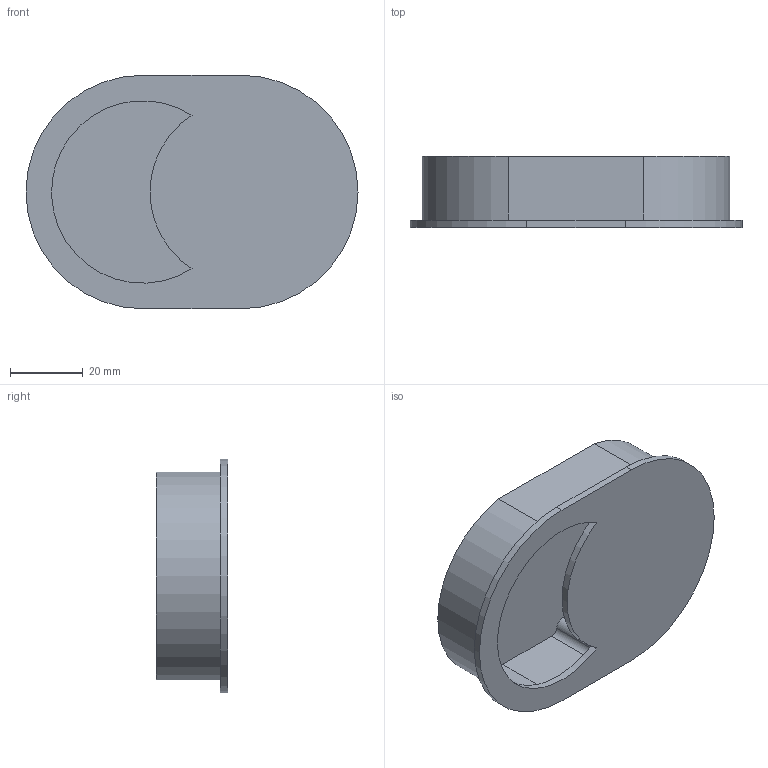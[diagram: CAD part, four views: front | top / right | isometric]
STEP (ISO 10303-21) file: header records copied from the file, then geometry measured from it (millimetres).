
FILE_DESCRIPTION( ( '' ), '1' );
FILE_NAME( 'C:/Documents and Settings/Nikhil/Desktop/Nik/Done/9145713.stp', '2013-10-23T07:47:55', ( '' ), ( '' ), ' ', ' ', ' ' );
FILE_SCHEMA( ( 'automotive_design' ) );
Length unit declared in the file: millimetre
Products named in the file (1): 1
Bounding box: 91 x 19.5 x 64 mm (x, y, z)
Volume: 21574.3 mm3; surface area: 23407.1 mm2
Topology: 1 solids, 1 shells, 40 faces, 93 edges, 62 vertices
Faces by surface type: cylinder 23, plane 17
Entity records: 2282 total; most frequent: DIRECTION 221, STYLED_ITEM 196, PRESENTATION_STYLE_ASSIGNMENT 196, CARTESIAN_POINT 196, COLOUR_RGB 196, ORIENTED_EDGE 186, EDGE_CURVE 93, CURVE_STYLE 93
